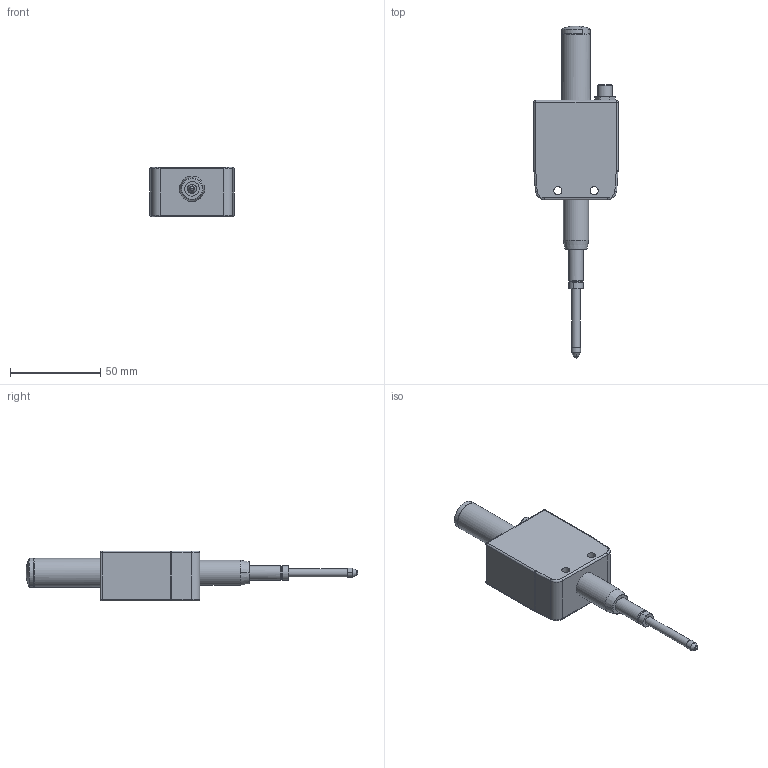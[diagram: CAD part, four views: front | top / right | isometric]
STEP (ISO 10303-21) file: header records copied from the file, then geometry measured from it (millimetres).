
FILE_DESCRIPTION(/* description */ (''),/* implementation_level */ '2;1');
FILE_NAME(/* name */ '30 绝对值测头简化图20250729.stp',/* time_stamp */ '2025-07-29T10:56:58+08:00',/* author */ (''),/* organization */ (''),/* preprocessor_version */ 'ST-DEVELOPER v16.7',/* originating_system */ 'SIEMENS PLM Software NX 1919',/* authorisation */ '');
FILE_SCHEMA (('AUTOMOTIVE_DESIGN { 1 0 10303 214 3 1 1 1 }'));
Length unit declared in the file: millimetre
Products named in the file (1): jzA6346C5253k8
Bounding box: 46.5 x 183.58 x 27.5 mm (x, y, z)
Volume: 82937.2 mm3; surface area: 15702.7 mm2
Topology: 1 solids, 3 shells, 127 faces, 331 edges, 215 vertices
Faces by surface type: cylinder 61, plane 35, torus 13, sphere 8, cone 8, bspline 2
Full cylindrical faces by diameter (mm): 4.5 x3, 8 x2, 13.5 x1, 14 x1, 15 x1, 16 x1
Entity records: 4589 total; most frequent: CARTESIAN_POINT 1622, DIRECTION 627, ORIENTED_EDGE 612, EDGE_CURVE 306, AXIS2_PLACEMENT_3D 259, VERTEX_POINT 206, EDGE_LOOP 156, CIRCLE 133
